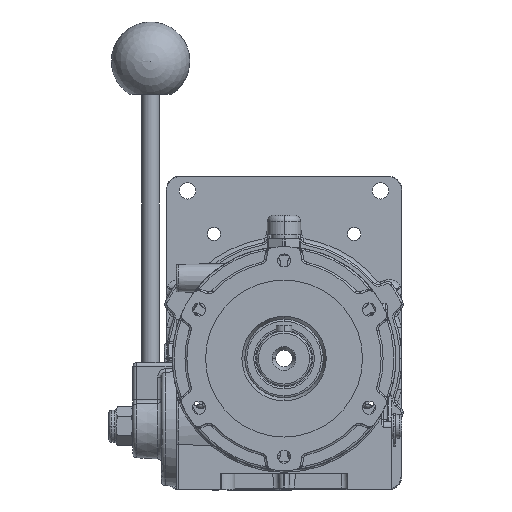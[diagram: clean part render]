
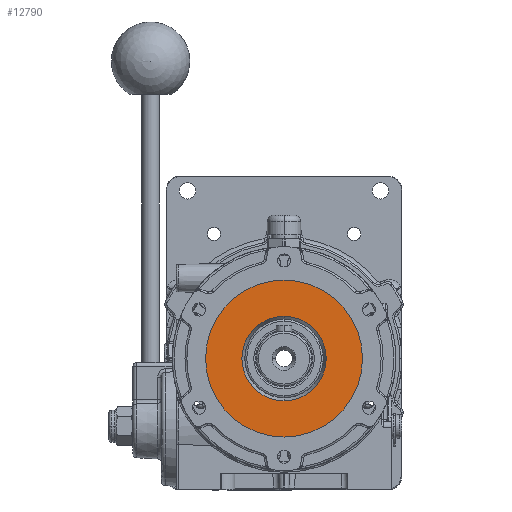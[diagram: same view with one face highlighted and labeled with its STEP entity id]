
A CAD part, left-side view. The second image highlights one B-rep face of the part: STEP entity #12790.
In plain terms, the highlighted planar face has unit normal (-1, 0, 0).
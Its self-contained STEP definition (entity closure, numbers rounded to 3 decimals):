
#1501 = DIRECTION ( 'NONE',  ( 0., -1., 0. ) ) ;
#3384 = FACE_BOUND ( 'NONE', #64712, .T. ) ;
#4055 = CARTESIAN_POINT ( 'NONE',  ( -134.5, 0., 40. ) ) ;
#5177 = AXIS2_PLACEMENT_3D ( 'NONE', #10463, #30504, #35418 ) ;
#6020 = DIRECTION ( 'NONE',  ( 1., 0., 0. ) ) ;
#6344 = DIRECTION ( 'NONE',  ( 0., -1., 0. ) ) ;
#9471 = AXIS2_PLACEMENT_3D ( 'NONE', #41494, #61502, #1501 ) ;
#10463 = CARTESIAN_POINT ( 'NONE',  ( -134.5, 0., 0. ) ) ;
#12017 = ORIENTED_EDGE ( 'NONE', *, *, #37705, .F. ) ;
#12445 = ORIENTED_EDGE ( 'NONE', *, *, #51187, .F. ) ;
#12558 = EDGE_CURVE ( 'NONE', #44538, #40151, #60131, .T. ) ;
#12790 = ADVANCED_FACE ( 'NONE', ( #28314, #3384 ), #43374, .T. ) ;
#16161 = AXIS2_PLACEMENT_3D ( 'NONE', #63391, #28653, #48624 ) ;
#19440 = CARTESIAN_POINT ( 'NONE',  ( -134.5, 0., -40. ) ) ;
#19529 = CARTESIAN_POINT ( 'NONE',  ( -134.5, 0., 0. ) ) ;
#19826 = AXIS2_PLACEMENT_3D ( 'NONE', #42895, #43232, #53709 ) ;
#19845 = CIRCLE ( 'NONE', #5177, 21.5 ) ;
#23146 = EDGE_CURVE ( 'NONE', #49709, #50197, #39707, .T. ) ;
#28314 = FACE_OUTER_BOUND ( 'NONE', #48783, .T. ) ;
#28362 = CIRCLE ( 'NONE', #9471, 40. ) ;
#28653 = DIRECTION ( 'NONE',  ( -1., 0., 0. ) ) ;
#28966 = ORIENTED_EDGE ( 'NONE', *, *, #23146, .F. ) ;
#30504 = DIRECTION ( 'NONE',  ( -1., 0., 0. ) ) ;
#35418 = DIRECTION ( 'NONE',  ( 0., 1., 0. ) ) ;
#37705 = EDGE_CURVE ( 'NONE', #50197, #49709, #19845, .T. ) ;
#39707 = CIRCLE ( 'NONE', #19826, 21.5 ) ;
#40151 = VERTEX_POINT ( 'NONE', #4055 ) ;
#41494 = CARTESIAN_POINT ( 'NONE',  ( -134.5, 0., 0. ) ) ;
#42895 = CARTESIAN_POINT ( 'NONE',  ( -134.5, 0., 0. ) ) ;
#43232 = DIRECTION ( 'NONE',  ( -1., 0., 0. ) ) ;
#43374 = PLANE ( 'NONE',  #16161 ) ;
#44538 = VERTEX_POINT ( 'NONE', #19440 ) ;
#46613 = CARTESIAN_POINT ( 'NONE',  ( -134.5, 21.5, 0. ) ) ;
#48624 = DIRECTION ( 'NONE',  ( 0., 0., 1. ) ) ;
#48783 = EDGE_LOOP ( 'NONE', ( #12445, #62412 ) ) ;
#49709 = VERTEX_POINT ( 'NONE', #46613 ) ;
#50197 = VERTEX_POINT ( 'NONE', #62471 ) ;
#51187 = EDGE_CURVE ( 'NONE', #40151, #44538, #28362, .T. ) ;
#53709 = DIRECTION ( 'NONE',  ( 0., 1., 0. ) ) ;
#60131 = CIRCLE ( 'NONE', #61175, 40. ) ;
#61175 = AXIS2_PLACEMENT_3D ( 'NONE', #19529, #6020, #6344 ) ;
#61502 = DIRECTION ( 'NONE',  ( 1., 0., 0. ) ) ;
#62412 = ORIENTED_EDGE ( 'NONE', *, *, #12558, .F. ) ;
#62471 = CARTESIAN_POINT ( 'NONE',  ( -134.5, -21.5, 0. ) ) ;
#63391 = CARTESIAN_POINT ( 'NONE',  ( -134.5, 0., 0. ) ) ;
#64712 = EDGE_LOOP ( 'NONE', ( #12017, #28966 ) ) ;
